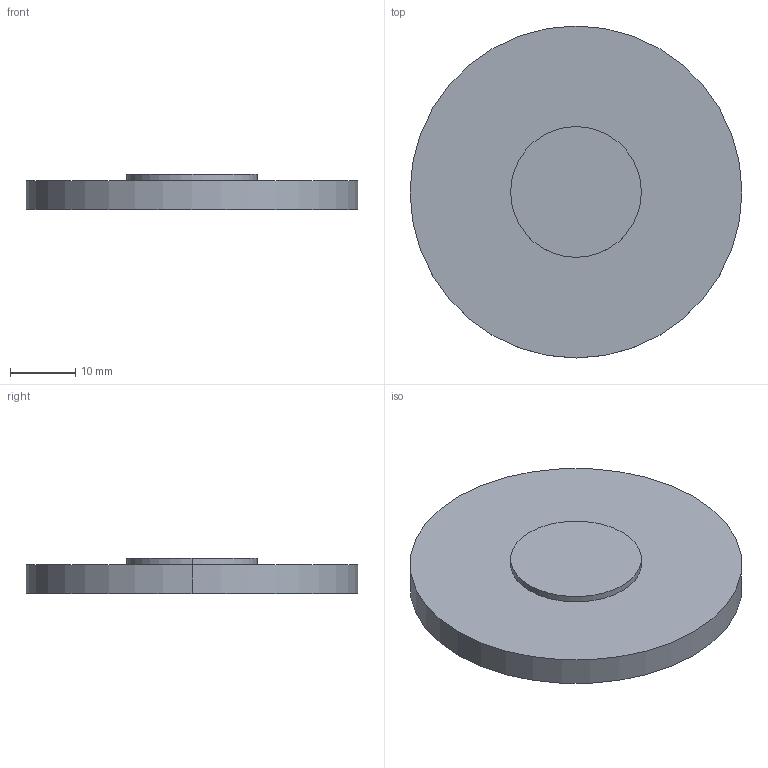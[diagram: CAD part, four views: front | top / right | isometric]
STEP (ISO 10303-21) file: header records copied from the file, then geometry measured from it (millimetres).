
FILE_DESCRIPTION(('STEP AP214'),'1');
FILE_NAME('LLR-5110M.STEP','2020-03-09T17:42:02',(' '),(' '),'Spatial InterOp 3D',' ',' ');
FILE_SCHEMA(('AUTOMOTIVE_DESIGN { 1 0 10303 214 1 1 1 1 }'));
Length unit declared in the file: millimetre
Products named in the file (1): 1
Bounding box: 50.8 x 50.8 x 5.5 mm (x, y, z)
Volume: 9357.7 mm3; surface area: 5450.8 mm2
Topology: 2 solids, 2 shells, 9 faces, 16 edges, 9 vertices
Faces by surface type: cylinder 4, plane 3, sphere 2
Entity records: 229 total; most frequent: DIRECTION 46, CARTESIAN_POINT 34, ORIENTED_EDGE 28, AXIS2_PLACEMENT_3D 21, EDGE_CURVE 14, CIRCLE 10, ADVANCED_FACE 9, FACE_OUTER_BOUND 9
